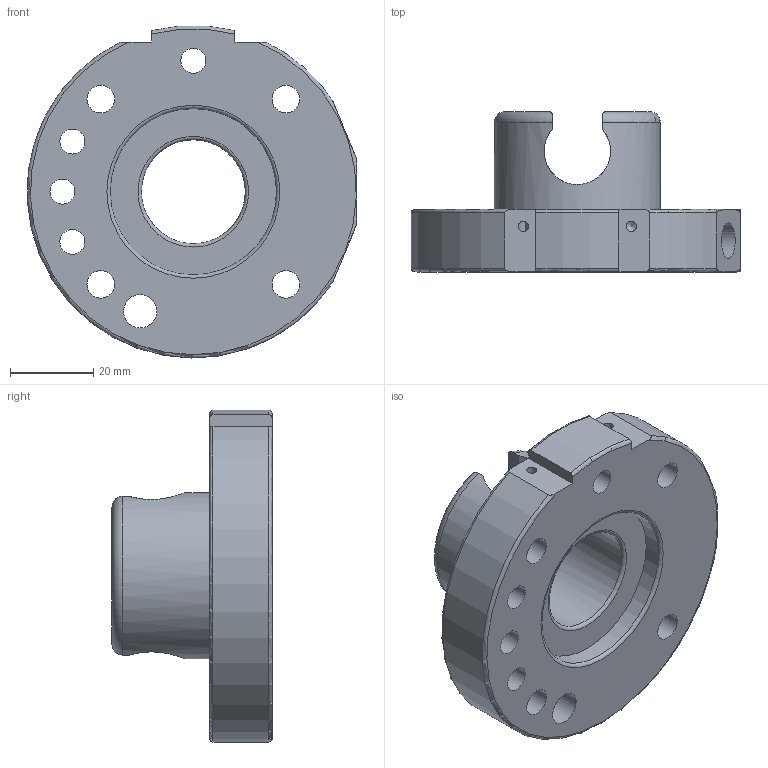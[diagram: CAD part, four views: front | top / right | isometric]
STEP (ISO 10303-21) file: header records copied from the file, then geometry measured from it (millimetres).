
FILE_DESCRIPTION(/* description */ (''),/* implementation_level */ '2;1');
FILE_NAME(/* name */ 'T:\Engineering\Homepage\Homepage 2020\4 3D Step-Daten - Homepage\4 SHW\G-SHW080-2UEP.stp',/* time_stamp */ '2023-06-30T11:05:58+02:00',/* author */ ('ysplieth'),/* organization */ (''),/* preprocessor_version */ 'ST-DEVELOPER v17',/* originating_system */ 'Autodesk Inventor 2018',/* authorisation */ '');
FILE_SCHEMA (('AUTOMOTIVE_DESIGN { 1 0 10303 214 3 1 1 }'));
Length unit declared in the file: millimetre
Products named in the file (1): Bauteil12
Bounding box: 79.25 x 38.5 x 79.85 mm (x, y, z)
Volume: 69120.3 mm3; surface area: 21911.6 mm2
Topology: 1 solids, 1 shells, 70 faces, 224 edges, 158 vertices
Faces by surface type: cylinder 31, plane 24, torus 10, cone 5
Full cylindrical faces by diameter (mm): 2.459 x2, 6 x7, 6.647 x4, 8 x1, 8.566 x3, 11 x4, 25 x1, 40 x2
Entity records: 3203 total; most frequent: CARTESIAN_POINT 1040, ORIENTED_EDGE 438, DIRECTION 418, EDGE_CURVE 219, AXIS2_PLACEMENT_3D 173, VERTEX_POINT 158, EDGE_LOOP 103, CIRCLE 102
